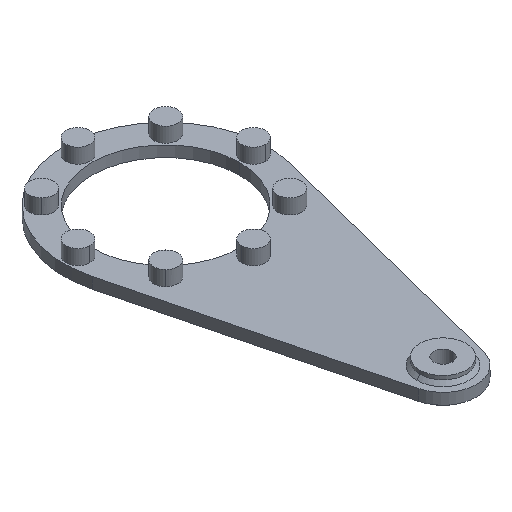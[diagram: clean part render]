
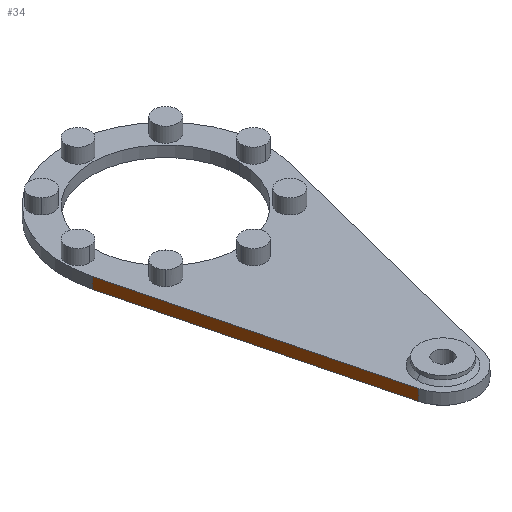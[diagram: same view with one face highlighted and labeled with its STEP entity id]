
A CAD part, isometric view. The second image highlights one B-rep face of the part: STEP entity #34.
In plain terms, the highlighted planar face has unit normal (-0.969, -0.247, 0).
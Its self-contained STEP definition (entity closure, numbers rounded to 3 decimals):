
#34=ADVANCED_FACE('',(#78),#741,.T.);
#78=FACE_OUTER_BOUND('',#122,.T.);
#122=EDGE_LOOP('',(#186,#187,#188,#189));
#186=ORIENTED_EDGE('',*,*,#386,.F.);
#187=ORIENTED_EDGE('',*,*,#387,.F.);
#188=ORIENTED_EDGE('',*,*,#383,.F.);
#189=ORIENTED_EDGE('',*,*,#385,.F.);
#383=EDGE_CURVE('',#646,#647,#610,.T.);
#385=EDGE_CURVE('',#648,#646,#611,.T.);
#386=EDGE_CURVE('',#649,#648,#612,.T.);
#387=EDGE_CURVE('',#647,#649,#613,.T.);
#610=B_SPLINE_CURVE_WITH_KNOTS('',1,(#1374,#1375),.UNSPECIFIED.,.F.,.F.,
(2,2),(0.,6.),.UNSPECIFIED.);
#611=B_SPLINE_CURVE_WITH_KNOTS('',1,(#1379,#1380),.UNSPECIFIED.,.F.,.F.,
(2,2),(-145.365,0.),.UNSPECIFIED.);
#612=B_SPLINE_CURVE_WITH_KNOTS('',1,(#1381,#1382),.UNSPECIFIED.,.F.,.F.,
(2,2),(-6.,0.),.UNSPECIFIED.);
#613=B_SPLINE_CURVE_WITH_KNOTS('',1,(#1383,#1384),.UNSPECIFIED.,.F.,.F.,
(2,2),(-145.365,0.),.UNSPECIFIED.);
#646=VERTEX_POINT('',#1299);
#647=VERTEX_POINT('',#1300);
#648=VERTEX_POINT('',#1301);
#649=VERTEX_POINT('',#1302);
#741=PLANE('',#933);
#933=AXIS2_PLACEMENT_3D('',#1217,#1043,$);
#1043=DIRECTION('',(-0.969,-0.247,0.));
#1217=CARTESIAN_POINT('',(-13.84,-168.598,-3.66));
#1299=CARTESIAN_POINT('',(-53.301,-13.567,-3.));
#1300=CARTESIAN_POINT('',(-53.301,-13.567,3.));
#1301=CARTESIAN_POINT('',(-17.444,-154.44,-3.));
#1302=CARTESIAN_POINT('',(-17.444,-154.44,3.));
#1374=CARTESIAN_POINT('',(-53.301,-13.567,-3.));
#1375=CARTESIAN_POINT('',(-53.301,-13.567,3.));
#1379=CARTESIAN_POINT('',(-17.444,-154.44,-3.));
#1380=CARTESIAN_POINT('',(-53.301,-13.567,-3.));
#1381=CARTESIAN_POINT('',(-17.444,-154.44,3.));
#1382=CARTESIAN_POINT('',(-17.444,-154.44,-3.));
#1383=CARTESIAN_POINT('',(-53.301,-13.567,3.));
#1384=CARTESIAN_POINT('',(-17.444,-154.44,3.));
